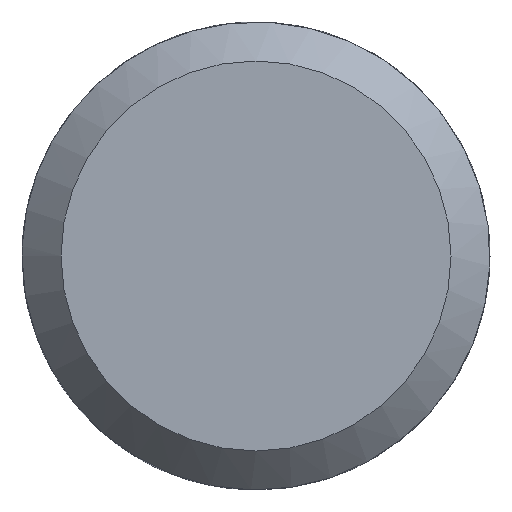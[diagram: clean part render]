
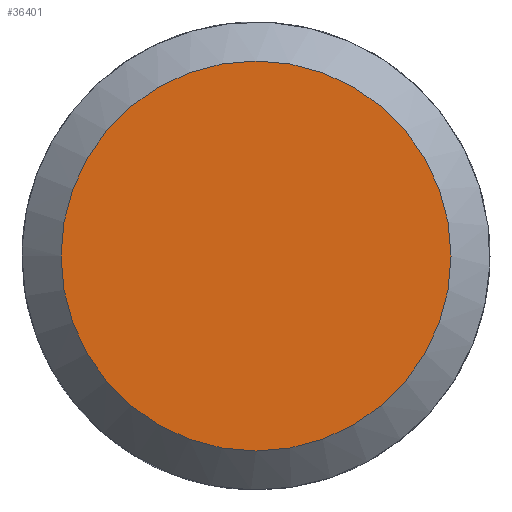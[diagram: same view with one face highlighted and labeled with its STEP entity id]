
A CAD part, left-side view. The second image highlights one B-rep face of the part: STEP entity #36401.
In plain terms, the highlighted planar face has unit normal (-1, 0, 0).
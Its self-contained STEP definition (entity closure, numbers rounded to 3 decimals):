
#13677=ORIENTED_EDGE('',*,*,#15762,.F.);
#13982=CIRCLE('',#36074,2.5);
#14713=VERTEX_POINT('',#35462);
#15762=EDGE_CURVE('',#14713,#14713,#13982,.T.);
#16086=EDGE_LOOP('',(#13677));
#16410=FACE_BOUND('',#16086,.T.);
#17625=DIRECTION('',(1.,0.,0.));
#17626=DIRECTION('',(0.,0.,-2.5));
#17627=DIRECTION('',(-1.,0.,0.));
#17628=DIRECTION('',(0.,1.,0.));
#35462=CARTESIAN_POINT('',(40.,0.,-2.5));
#35463=CARTESIAN_POINT('',(40.,0.,0.));
#35464=CARTESIAN_POINT('',(40.,0.,0.));
#36074=AXIS2_PLACEMENT_3D('',#35463,#17625,#17626);
#36075=AXIS2_PLACEMENT_3D('',#35464,#17627,#17628);
#36079=PLANE('',#36075);
#36401=ADVANCED_FACE('',(#16410),#36079,.T.);
